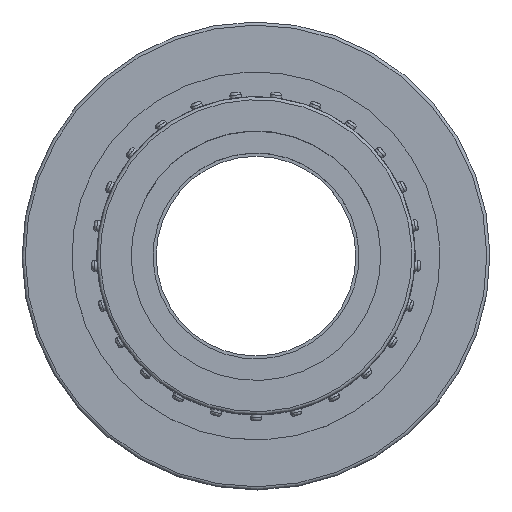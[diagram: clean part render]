
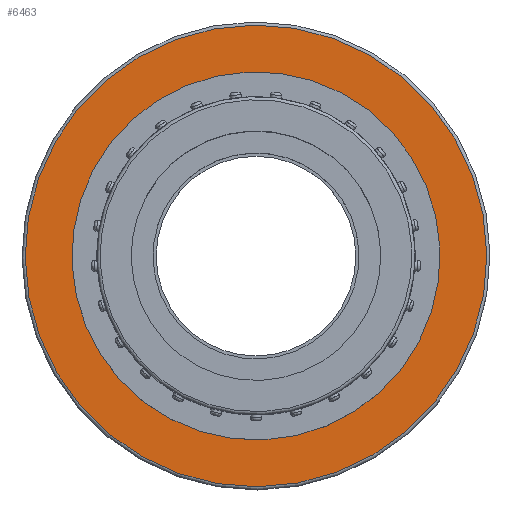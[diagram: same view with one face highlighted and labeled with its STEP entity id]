
A CAD part, top view. The second image highlights one B-rep face of the part: STEP entity #6463.
In plain terms, the highlighted planar face has unit normal (0, 0, 1).
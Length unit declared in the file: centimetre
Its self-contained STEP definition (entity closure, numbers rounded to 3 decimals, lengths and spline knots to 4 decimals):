
#1270=FACE_BOUND('',#1652,.T.);
#1298=FACE_OUTER_BOUND('',#1651,.T.);
#1651=EDGE_LOOP('',(#4040));
#1652=EDGE_LOOP('',(#4041));
#2032=CIRCLE('',#6821,3.7);
#2033=CIRCLE('',#6822,2.95);
#2413=VERTEX_POINT('',#9196);
#2414=VERTEX_POINT('',#9198);
#3064=EDGE_CURVE('',#2413,#2413,#2032,.T.);
#3065=EDGE_CURVE('',#2414,#2414,#2033,.T.);
#4040=ORIENTED_EDGE('',*,*,#3064,.F.);
#4041=ORIENTED_EDGE('',*,*,#3065,.F.);
#5992=PLANE('',#6820);
#6463=ADVANCED_FACE('',(#1298,#1270),#5992,.T.);
#6820=AXIS2_PLACEMENT_3D('',#9195,#7471,#7472);
#6821=AXIS2_PLACEMENT_3D('',#9197,#7473,#7474);
#6822=AXIS2_PLACEMENT_3D('',#9199,#7475,#7476);
#7471=DIRECTION('center_axis',(0.,0.,
1.));
#7472=DIRECTION('ref_axis',(-0.493,-0.87,0.));
#7473=DIRECTION('center_axis',(0.,0.,
-1.));
#7474=DIRECTION('ref_axis',(0.87,-0.493,0.));
#7475=DIRECTION('center_axis',(0.,0.,
1.));
#7476=DIRECTION('ref_axis',(0.537,-0.844,0.));
#9195=CARTESIAN_POINT('Origin',(-3.2616,1.8505,1.55));
#9196=CARTESIAN_POINT('',(-3.2181,1.8259,1.55));
#9197=CARTESIAN_POINT('Origin',(0.,0.,
1.55));
#9198=CARTESIAN_POINT('',(-1.5831,2.4892,1.55));
#9199=CARTESIAN_POINT('Origin',(0.,0.,
1.55));
